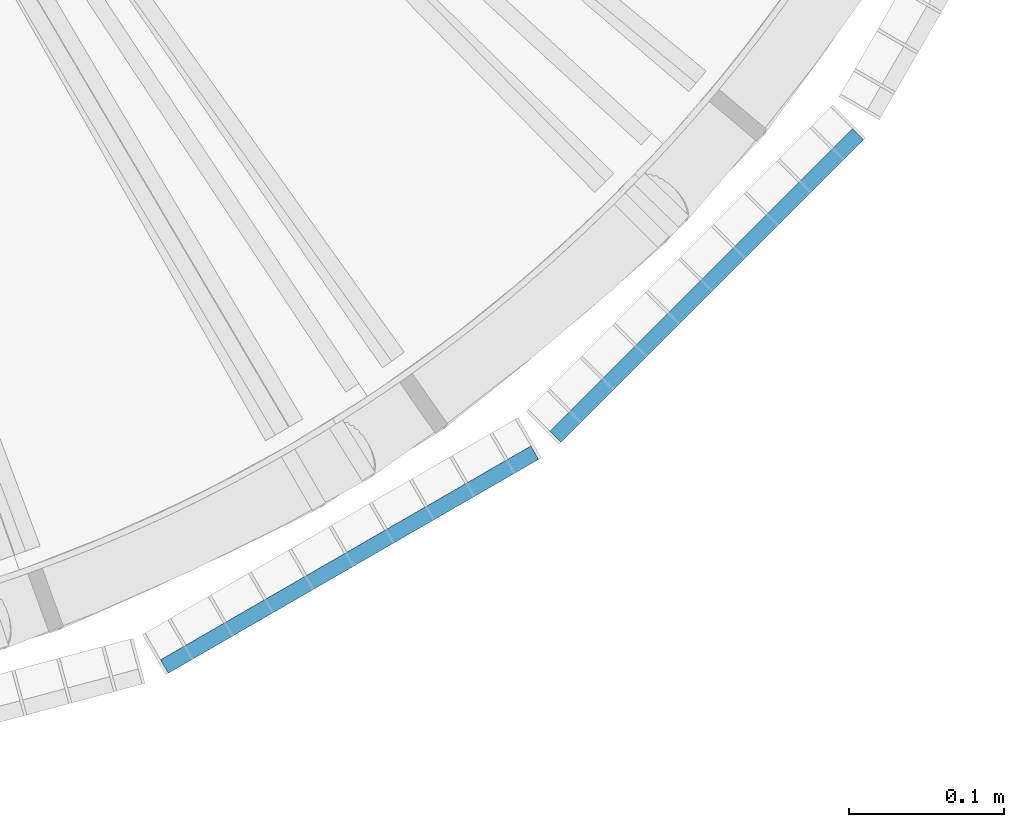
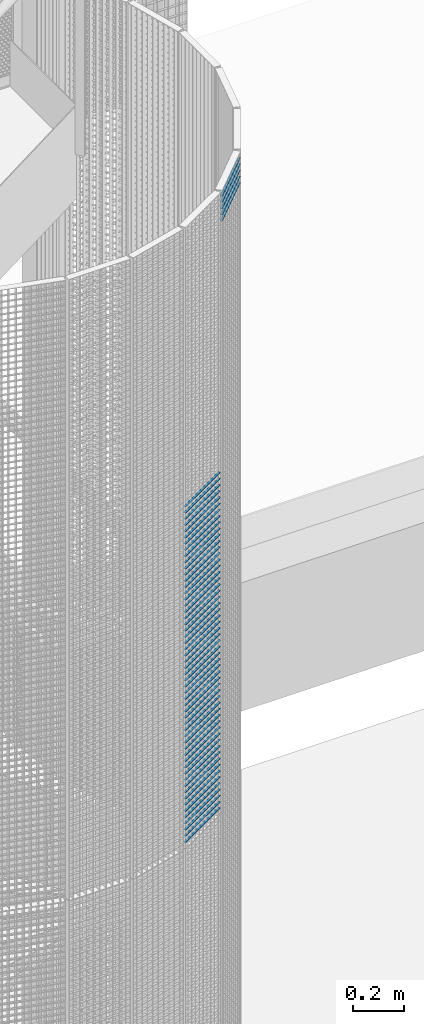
# One storey, part 379 of 1148: 60 beams, 2 elements without a shape of their own.
"""IFC2X3 building model written with IfcOpenShell, lengths in millimetres."""

from ifc_helpers import new_model, si_unit, frame, origin_with_axes, origin_2d_with_axis, place, context, subcontext, project, spatial, rectangle, extrude, material, type_object, element, aggregate, save


model = new_model("IFC2X3")

# Units and contexts
model_context = context("Model", 3, precision=1e-05, world=origin_with_axes())
body_context = subcontext(model_context, "Body", "Model", "MODEL_VIEW")
ifc_project = project(units=[si_unit("LENGTHUNIT", "METRE", prefix="MILLI"), si_unit("AREAUNIT", "SQUARE_METRE"), si_unit("VOLUMEUNIT", "CUBIC_METRE"), si_unit("MASSUNIT", "GRAM", prefix="KILO"), si_unit("TIMEUNIT", "SECOND"), si_unit("PLANEANGLEUNIT", "RADIAN"), si_unit("SOLIDANGLEUNIT", "STERADIAN"), si_unit("THERMODYNAMICTEMPERATUREUNIT", "DEGREE_CELSIUS"), si_unit("LUMINOUSINTENSITYUNIT", "LUMEN")], contexts=[model_context])

# Site, building, storey
site_placement = place(None, origin_with_axes())
site = spatial("IfcSite", under=ifc_project, at=site_placement, Name="Undefined", CompositionType="ELEMENT")
building_placement = place(site_placement, origin_with_axes())
building = spatial("IfcBuilding", under=site, at=building_placement, Name="Undefined", CompositionType="ELEMENT")
storey_placement = place(building_placement, origin_with_axes())
storey = spatial("IfcBuildingStorey", under=building, at=storey_placement, Name="Undefined", CompositionType="ELEMENT", Elevation=0.0)

# Assembly, beams
assembly_1_placement = place(storey_placement, origin_with_axes())
assembly_1 = element("IfcElementAssembly", 1, at=assembly_1_placement, inside=storey, Name="BORDURE", AssemblyPlace="NOTDEFINED", PredefinedType="NOTDEFINED")
ifc_material = material(Name="STEEL/S235JR")
beam_type = type_object("IfcBeamType", Name="PL2*10", PredefinedType="NOTDEFINED")
beam_1_placement = place(assembly_1_placement, frame((22276.2480445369, -895.303964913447, 16650.0), z_axis=(0.499999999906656, -0.866025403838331, 0.0), x_axis=(-0.866025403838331, -0.499999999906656, 0.0)))
beam_1 = element("IfcBeam", 2, at=beam_1_placement, type_object=beam_type, material=ifc_material, Name="ENTRETOISE", context=body_context, shape_type="SweptSolid", body=[
    extrude(rectangle(XDim=2.0, YDim=10.0, at=origin_2d_with_axis()), frame((275.999999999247, 9.09494701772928e-13, 1.53210777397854e-14), z_axis=(-1.0, 0.0, 0.0), x_axis=(0.0, -1.0, 0.0)), (0.0, 0.0, 1.0), 276.0),
])
beam_2_placement = place(assembly_1_placement, frame((22276.2480445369, -895.303964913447, 16620.0), z_axis=(0.499999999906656, -0.866025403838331, 0.0), x_axis=(-0.866025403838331, -0.499999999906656, 0.0)))
beam_2 = element("IfcBeam", 3, at=beam_2_placement, type_object=beam_type, material=ifc_material, Name="ENTRETOISE", context=body_context, shape_type="SweptSolid", body=[
    extrude(rectangle(XDim=2.0, YDim=10.0, at=origin_2d_with_axis()), frame((275.999999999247, 9.09494701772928e-13, 1.53210777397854e-14), z_axis=(-1.0, 0.0, 0.0), x_axis=(0.0, -1.0, 0.0)), (0.0, 0.0, 1.0), 276.0),
])
beam_3_placement = place(assembly_1_placement, frame((22276.2480445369, -895.303964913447, 16590.0), z_axis=(0.499999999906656, -0.866025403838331, 0.0), x_axis=(-0.866025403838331, -0.499999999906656, 0.0)))
beam_3 = element("IfcBeam", 4, at=beam_3_placement, type_object=beam_type, material=ifc_material, Name="ENTRETOISE", context=body_context, shape_type="SweptSolid", body=[
    extrude(rectangle(XDim=2.0, YDim=10.0, at=origin_2d_with_axis()), frame((275.999999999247, 9.09494701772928e-13, 1.53210777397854e-14), z_axis=(-1.0, 0.0, 0.0), x_axis=(0.0, -1.0, 0.0)), (0.0, 0.0, 1.0), 276.0),
])
beam_4_placement = place(assembly_1_placement, frame((22276.2480445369, -895.303964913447, 16560.0), z_axis=(0.499999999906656, -0.866025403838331, 0.0), x_axis=(-0.866025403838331, -0.499999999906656, 0.0)))
beam_4 = element("IfcBeam", 5, at=beam_4_placement, type_object=beam_type, material=ifc_material, Name="ENTRETOISE", context=body_context, shape_type="SweptSolid", body=[
    extrude(rectangle(XDim=2.0, YDim=10.0, at=origin_2d_with_axis()), frame((275.999999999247, 9.09494701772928e-13, 1.53210777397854e-14), z_axis=(-1.0, 0.0, 0.0), x_axis=(0.0, -1.0, 0.0)), (0.0, 0.0, 1.0), 276.0),
])
beam_5_placement = place(assembly_1_placement, frame((22276.2480445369, -895.303964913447, 16530.0), z_axis=(0.499999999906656, -0.866025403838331, 0.0), x_axis=(-0.866025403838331, -0.499999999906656, 0.0)))
beam_5 = element("IfcBeam", 6, at=beam_5_placement, type_object=beam_type, material=ifc_material, Name="ENTRETOISE", context=body_context, shape_type="SweptSolid", body=[
    extrude(rectangle(XDim=2.0, YDim=10.0, at=origin_2d_with_axis()), frame((275.999999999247, 9.09494701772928e-13, 1.53210777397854e-14), z_axis=(-1.0, 0.0, 0.0), x_axis=(0.0, -1.0, 0.0)), (0.0, 0.0, 1.0), 276.0),
])
beam_6_placement = place(assembly_1_placement, frame((22276.2480445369, -895.303964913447, 16500.0), z_axis=(0.499999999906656, -0.866025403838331, 0.0), x_axis=(-0.866025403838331, -0.499999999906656, 0.0)))
beam_6 = element("IfcBeam", 7, at=beam_6_placement, type_object=beam_type, material=ifc_material, Name="ENTRETOISE", context=body_context, shape_type="SweptSolid", body=[
    extrude(rectangle(XDim=2.0, YDim=10.0, at=origin_2d_with_axis()), frame((275.999999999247, 9.09494701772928e-13, 1.53210777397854e-14), z_axis=(-1.0, 0.0, 0.0), x_axis=(0.0, -1.0, 0.0)), (0.0, 0.0, 1.0), 276.0),
])
beam_7_placement = place(assembly_1_placement, frame((22276.2480445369, -895.303964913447, 16470.0), z_axis=(0.499999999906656, -0.866025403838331, 0.0), x_axis=(-0.866025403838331, -0.499999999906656, 0.0)))
beam_7 = element("IfcBeam", 8, at=beam_7_placement, type_object=beam_type, material=ifc_material, Name="ENTRETOISE", context=body_context, shape_type="SweptSolid", body=[
    extrude(rectangle(XDim=2.0, YDim=10.0, at=origin_2d_with_axis()), frame((275.999999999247, 9.09494701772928e-13, 1.53210777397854e-14), z_axis=(-1.0, 0.0, 0.0), x_axis=(0.0, -1.0, 0.0)), (0.0, 0.0, 1.0), 276.0),
])
beam_8_placement = place(assembly_1_placement, frame((22276.2480445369, -895.303964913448, 16440.0), z_axis=(0.499999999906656, -0.866025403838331, 0.0), x_axis=(-0.866025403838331, -0.499999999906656, 0.0)))
beam_8 = element("IfcBeam", 9, at=beam_8_placement, type_object=beam_type, material=ifc_material, Name="ENTRETOISE", context=body_context, shape_type="SweptSolid", body=[
    extrude(rectangle(XDim=2.0, YDim=10.0, at=origin_2d_with_axis()), frame((275.999999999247, 9.09494701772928e-13, 1.53210777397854e-14), z_axis=(-1.0, 0.0, 0.0), x_axis=(0.0, -1.0, 0.0)), (0.0, 0.0, 1.0), 276.0),
])
beam_9_placement = place(assembly_1_placement, frame((22276.2480445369, -895.303964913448, 16410.0), z_axis=(0.499999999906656, -0.866025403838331, 0.0), x_axis=(-0.866025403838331, -0.499999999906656, 0.0)))
beam_9 = element("IfcBeam", 10, at=beam_9_placement, type_object=beam_type, material=ifc_material, Name="ENTRETOISE", context=body_context, shape_type="SweptSolid", body=[
    extrude(rectangle(XDim=2.0, YDim=10.0, at=origin_2d_with_axis()), frame((275.999999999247, 9.09494701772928e-13, 1.53210777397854e-14), z_axis=(-1.0, 0.0, 0.0), x_axis=(0.0, -1.0, 0.0)), (0.0, 0.0, 1.0), 276.0),
])
beam_10_placement = place(assembly_1_placement, frame((22276.2480445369, -895.303964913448, 16380.0), z_axis=(0.499999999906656, -0.866025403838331, 0.0), x_axis=(-0.866025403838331, -0.499999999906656, 0.0)))
beam_10 = element("IfcBeam", 11, at=beam_10_placement, type_object=beam_type, material=ifc_material, Name="ENTRETOISE", context=body_context, shape_type="SweptSolid", body=[
    extrude(rectangle(XDim=2.0, YDim=10.0, at=origin_2d_with_axis()), frame((275.999999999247, 9.09494701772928e-13, 1.53210777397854e-14), z_axis=(-1.0, 0.0, 0.0), x_axis=(0.0, -1.0, 0.0)), (0.0, 0.0, 1.0), 276.0),
])
beam_11_placement = place(assembly_1_placement, frame((22276.2480445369, -895.303964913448, 16350.0), z_axis=(0.499999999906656, -0.866025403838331, 0.0), x_axis=(-0.866025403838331, -0.499999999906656, 0.0)))
beam_11 = element("IfcBeam", 12, at=beam_11_placement, type_object=beam_type, material=ifc_material, Name="ENTRETOISE", context=body_context, shape_type="SweptSolid", body=[
    extrude(rectangle(XDim=2.0, YDim=10.0, at=origin_2d_with_axis()), frame((275.999999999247, 9.09494701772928e-13, 1.53210777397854e-14), z_axis=(-1.0, 0.0, 0.0), x_axis=(0.0, -1.0, 0.0)), (0.0, 0.0, 1.0), 276.0),
])
beam_12_placement = place(assembly_1_placement, frame((22276.2480445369, -895.303964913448, 16320.0), z_axis=(0.499999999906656, -0.866025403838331, 0.0), x_axis=(-0.866025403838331, -0.499999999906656, 0.0)))
beam_12 = element("IfcBeam", 13, at=beam_12_placement, type_object=beam_type, material=ifc_material, Name="ENTRETOISE", context=body_context, shape_type="SweptSolid", body=[
    extrude(rectangle(XDim=2.0, YDim=10.0, at=origin_2d_with_axis()), frame((275.999999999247, 9.09494701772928e-13, 1.53210777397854e-14), z_axis=(-1.0, 0.0, 0.0), x_axis=(0.0, -1.0, 0.0)), (0.0, 0.0, 1.0), 276.0),
])
beam_13_placement = place(assembly_1_placement, frame((22276.2480445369, -895.303964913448, 16290.0), z_axis=(0.499999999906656, -0.866025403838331, 0.0), x_axis=(-0.866025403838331, -0.499999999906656, 0.0)))
beam_13 = element("IfcBeam", 14, at=beam_13_placement, type_object=beam_type, material=ifc_material, Name="ENTRETOISE", context=body_context, shape_type="SweptSolid", body=[
    extrude(rectangle(XDim=2.0, YDim=10.0, at=origin_2d_with_axis()), frame((275.999999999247, 9.09494701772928e-13, 1.53210777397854e-14), z_axis=(-1.0, 0.0, 0.0), x_axis=(0.0, -1.0, 0.0)), (0.0, 0.0, 1.0), 276.0),
])
beam_14_placement = place(assembly_1_placement, frame((22276.2480445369, -895.303964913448, 16260.0), z_axis=(0.499999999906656, -0.866025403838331, 0.0), x_axis=(-0.866025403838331, -0.499999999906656, 0.0)))
beam_14 = element("IfcBeam", 15, at=beam_14_placement, type_object=beam_type, material=ifc_material, Name="ENTRETOISE", context=body_context, shape_type="SweptSolid", body=[
    extrude(rectangle(XDim=2.0, YDim=10.0, at=origin_2d_with_axis()), frame((275.999999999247, 9.09494701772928e-13, 1.53210777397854e-14), z_axis=(-1.0, 0.0, 0.0), x_axis=(0.0, -1.0, 0.0)), (0.0, 0.0, 1.0), 276.0),
])
beam_15_placement = place(assembly_1_placement, frame((22276.2480445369, -895.303964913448, 16230.0), z_axis=(0.499999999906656, -0.866025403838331, 0.0), x_axis=(-0.866025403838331, -0.499999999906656, 0.0)))
beam_15 = element("IfcBeam", 16, at=beam_15_placement, type_object=beam_type, material=ifc_material, Name="ENTRETOISE", context=body_context, shape_type="SweptSolid", body=[
    extrude(rectangle(XDim=2.0, YDim=10.0, at=origin_2d_with_axis()), frame((275.999999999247, 9.09494701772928e-13, 1.53210777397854e-14), z_axis=(-1.0, 0.0, 0.0), x_axis=(0.0, -1.0, 0.0)), (0.0, 0.0, 1.0), 276.0),
])
beam_16_placement = place(assembly_1_placement, frame((22276.2480445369, -895.303964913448, 16200.0), z_axis=(0.499999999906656, -0.866025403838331, 0.0), x_axis=(-0.866025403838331, -0.499999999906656, 0.0)))
beam_16 = element("IfcBeam", 17, at=beam_16_placement, type_object=beam_type, material=ifc_material, Name="ENTRETOISE", context=body_context, shape_type="SweptSolid", body=[
    extrude(rectangle(XDim=2.0, YDim=10.0, at=origin_2d_with_axis()), frame((275.999999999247, 9.09494701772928e-13, 1.53210777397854e-14), z_axis=(-1.0, 0.0, 0.0), x_axis=(0.0, -1.0, 0.0)), (0.0, 0.0, 1.0), 276.0),
])
beam_17_placement = place(assembly_1_placement, frame((22276.2480445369, -895.303964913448, 16170.0), z_axis=(0.499999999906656, -0.866025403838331, 0.0), x_axis=(-0.866025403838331, -0.499999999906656, 0.0)))
beam_17 = element("IfcBeam", 18, at=beam_17_placement, type_object=beam_type, material=ifc_material, Name="ENTRETOISE", context=body_context, shape_type="SweptSolid", body=[
    extrude(rectangle(XDim=2.0, YDim=10.0, at=origin_2d_with_axis()), frame((275.999999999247, 9.09494701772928e-13, 1.53210777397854e-14), z_axis=(-1.0, 0.0, 0.0), x_axis=(0.0, -1.0, 0.0)), (0.0, 0.0, 1.0), 276.0),
])
beam_18_placement = place(assembly_1_placement, frame((22276.2480445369, -895.303964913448, 16140.0), z_axis=(0.499999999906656, -0.866025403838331, 0.0), x_axis=(-0.866025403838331, -0.499999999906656, 0.0)))
beam_18 = element("IfcBeam", 19, at=beam_18_placement, type_object=beam_type, material=ifc_material, Name="ENTRETOISE", context=body_context, shape_type="SweptSolid", body=[
    extrude(rectangle(XDim=2.0, YDim=10.0, at=origin_2d_with_axis()), frame((275.999999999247, 9.09494701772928e-13, 1.53210777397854e-14), z_axis=(-1.0, 0.0, 0.0), x_axis=(0.0, -1.0, 0.0)), (0.0, 0.0, 1.0), 276.0),
])
beam_19_placement = place(assembly_1_placement, frame((22276.2480445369, -895.303964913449, 15720.0), z_axis=(0.499999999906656, -0.866025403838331, 0.0), x_axis=(-0.866025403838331, -0.499999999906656, 0.0)))
beam_19 = element("IfcBeam", 20, at=beam_19_placement, type_object=beam_type, material=ifc_material, Name="ENTRETOISE", context=body_context, shape_type="SweptSolid", body=[
    extrude(rectangle(XDim=2.0, YDim=10.0, at=origin_2d_with_axis()), frame((275.999999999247, 9.09494701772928e-13, 1.53210777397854e-14), z_axis=(-1.0, 0.0, 0.0), x_axis=(0.0, -1.0, 0.0)), (0.0, 0.0, 1.0), 276.0),
])
beam_20_placement = place(assembly_1_placement, frame((22276.2480445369, -895.303964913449, 15690.0), z_axis=(0.499999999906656, -0.866025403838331, 0.0), x_axis=(-0.866025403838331, -0.499999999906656, 0.0)))
beam_20 = element("IfcBeam", 21, at=beam_20_placement, type_object=beam_type, material=ifc_material, Name="ENTRETOISE", context=body_context, shape_type="SweptSolid", body=[
    extrude(rectangle(XDim=2.0, YDim=10.0, at=origin_2d_with_axis()), frame((275.999999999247, 9.09494701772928e-13, 1.53210777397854e-14), z_axis=(-1.0, 0.0, 0.0), x_axis=(0.0, -1.0, 0.0)), (0.0, 0.0, 1.0), 276.0),
])
beam_21_placement = place(assembly_1_placement, frame((22276.2480445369, -895.303964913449, 15750.0), z_axis=(0.499999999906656, -0.866025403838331, 0.0), x_axis=(-0.866025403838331, -0.499999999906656, 0.0)))
beam_21 = element("IfcBeam", 22, at=beam_21_placement, type_object=beam_type, material=ifc_material, Name="ENTRETOISE", context=body_context, shape_type="SweptSolid", body=[
    extrude(rectangle(XDim=2.0, YDim=10.0, at=origin_2d_with_axis()), frame((275.999999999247, 9.09494701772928e-13, 1.53210777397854e-14), z_axis=(-1.0, 0.0, 0.0), x_axis=(0.0, -1.0, 0.0)), (0.0, 0.0, 1.0), 276.0),
])
beam_22_placement = place(assembly_1_placement, frame((22276.2480445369, -895.303964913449, 15660.0), z_axis=(0.499999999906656, -0.866025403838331, 0.0), x_axis=(-0.866025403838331, -0.499999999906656, 0.0)))
beam_22 = element("IfcBeam", 23, at=beam_22_placement, type_object=beam_type, material=ifc_material, Name="ENTRETOISE", context=body_context, shape_type="SweptSolid", body=[
    extrude(rectangle(XDim=2.0, YDim=10.0, at=origin_2d_with_axis()), frame((275.999999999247, 9.09494701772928e-13, 1.53210777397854e-14), z_axis=(-1.0, 0.0, 0.0), x_axis=(0.0, -1.0, 0.0)), (0.0, 0.0, 1.0), 276.0),
])
beam_23_placement = place(assembly_1_placement, frame((22276.2480445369, -895.303964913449, 15630.0), z_axis=(0.499999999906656, -0.866025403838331, 0.0), x_axis=(-0.866025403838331, -0.499999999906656, 0.0)))
beam_23 = element("IfcBeam", 24, at=beam_23_placement, type_object=beam_type, material=ifc_material, Name="ENTRETOISE", context=body_context, shape_type="SweptSolid", body=[
    extrude(rectangle(XDim=2.0, YDim=10.0, at=origin_2d_with_axis()), frame((275.999999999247, 9.09494701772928e-13, 1.53210777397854e-14), z_axis=(-1.0, 0.0, 0.0), x_axis=(0.0, -1.0, 0.0)), (0.0, 0.0, 1.0), 276.0),
])
beam_24_placement = place(assembly_1_placement, frame((22276.2480445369, -895.303964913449, 15780.0), z_axis=(0.499999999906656, -0.866025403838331, 0.0), x_axis=(-0.866025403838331, -0.499999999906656, 0.0)))
beam_24 = element("IfcBeam", 25, at=beam_24_placement, type_object=beam_type, material=ifc_material, Name="ENTRETOISE", context=body_context, shape_type="SweptSolid", body=[
    extrude(rectangle(XDim=2.0, YDim=10.0, at=origin_2d_with_axis()), frame((275.999999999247, 9.09494701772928e-13, 1.53210777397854e-14), z_axis=(-1.0, 0.0, 0.0), x_axis=(0.0, -1.0, 0.0)), (0.0, 0.0, 1.0), 276.0),
])
beam_25_placement = place(assembly_1_placement, frame((22276.2480445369, -895.30396491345, 15600.0), z_axis=(0.499999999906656, -0.866025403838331, 0.0), x_axis=(-0.866025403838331, -0.499999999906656, 0.0)))
beam_25 = element("IfcBeam", 26, at=beam_25_placement, type_object=beam_type, material=ifc_material, Name="ENTRETOISE", context=body_context, shape_type="SweptSolid", body=[
    extrude(rectangle(XDim=2.0, YDim=10.0, at=origin_2d_with_axis()), frame((275.999999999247, 9.09494701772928e-13, 1.53210777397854e-14), z_axis=(-1.0, 0.0, 0.0), x_axis=(0.0, -1.0, 0.0)), (0.0, 0.0, 1.0), 276.0),
])
beam_26_placement = place(assembly_1_placement, frame((22276.2480445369, -895.303964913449, 15810.0), z_axis=(0.499999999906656, -0.866025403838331, 0.0), x_axis=(-0.866025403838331, -0.499999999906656, 0.0)))
beam_26 = element("IfcBeam", 27, at=beam_26_placement, type_object=beam_type, material=ifc_material, Name="ENTRETOISE", context=body_context, shape_type="SweptSolid", body=[
    extrude(rectangle(XDim=2.0, YDim=10.0, at=origin_2d_with_axis()), frame((275.999999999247, 9.09494701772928e-13, 1.53210777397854e-14), z_axis=(-1.0, 0.0, 0.0), x_axis=(0.0, -1.0, 0.0)), (0.0, 0.0, 1.0), 276.0),
])
beam_27_placement = place(assembly_1_placement, frame((22276.2480445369, -895.30396491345, 15570.0), z_axis=(0.499999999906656, -0.866025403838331, 0.0), x_axis=(-0.866025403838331, -0.499999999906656, 0.0)))
beam_27 = element("IfcBeam", 28, at=beam_27_placement, type_object=beam_type, material=ifc_material, Name="ENTRETOISE", context=body_context, shape_type="SweptSolid", body=[
    extrude(rectangle(XDim=2.0, YDim=10.0, at=origin_2d_with_axis()), frame((275.999999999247, 9.09494701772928e-13, 1.53210777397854e-14), z_axis=(-1.0, 0.0, 0.0), x_axis=(0.0, -1.0, 0.0)), (0.0, 0.0, 1.0), 276.0),
])
beam_28_placement = place(assembly_1_placement, frame((22276.2480445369, -895.30396491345, 15540.0), z_axis=(0.499999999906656, -0.866025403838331, 0.0), x_axis=(-0.866025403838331, -0.499999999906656, 0.0)))
beam_28 = element("IfcBeam", 29, at=beam_28_placement, type_object=beam_type, material=ifc_material, Name="ENTRETOISE", context=body_context, shape_type="SweptSolid", body=[
    extrude(rectangle(XDim=2.0, YDim=10.0, at=origin_2d_with_axis()), frame((275.999999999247, 9.09494701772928e-13, 1.53210777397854e-14), z_axis=(-1.0, 0.0, 0.0), x_axis=(0.0, -1.0, 0.0)), (0.0, 0.0, 1.0), 276.0),
])
beam_29_placement = place(assembly_1_placement, frame((22276.2480445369, -895.303964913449, 15840.0), z_axis=(0.499999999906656, -0.866025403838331, 0.0), x_axis=(-0.866025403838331, -0.499999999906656, 0.0)))
beam_29 = element("IfcBeam", 30, at=beam_29_placement, type_object=beam_type, material=ifc_material, Name="ENTRETOISE", context=body_context, shape_type="SweptSolid", body=[
    extrude(rectangle(XDim=2.0, YDim=10.0, at=origin_2d_with_axis()), frame((275.999999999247, 9.09494701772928e-13, 1.53210777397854e-14), z_axis=(-1.0, 0.0, 0.0), x_axis=(0.0, -1.0, 0.0)), (0.0, 0.0, 1.0), 276.0),
])
beam_30_placement = place(assembly_1_placement, frame((22276.2480445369, -895.303964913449, 15510.0), z_axis=(0.499999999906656, -0.866025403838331, 0.0), x_axis=(-0.866025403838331, -0.499999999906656, 0.0)))
beam_30 = element("IfcBeam", 31, at=beam_30_placement, type_object=beam_type, material=ifc_material, Name="ENTRETOISE", context=body_context, shape_type="SweptSolid", body=[
    extrude(rectangle(XDim=2.0, YDim=10.0, at=origin_2d_with_axis()), frame((275.999999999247, 9.09494701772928e-13, 1.53210777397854e-14), z_axis=(-1.0, 0.0, 0.0), x_axis=(0.0, -1.0, 0.0)), (0.0, 0.0, 1.0), 276.0),
])
beam_31_placement = place(assembly_1_placement, frame((22276.2480445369, -895.303964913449, 15480.0), z_axis=(0.499999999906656, -0.866025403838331, 0.0), x_axis=(-0.866025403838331, -0.499999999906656, 0.0)))
beam_31 = element("IfcBeam", 32, at=beam_31_placement, type_object=beam_type, material=ifc_material, Name="ENTRETOISE", context=body_context, shape_type="SweptSolid", body=[
    extrude(rectangle(XDim=2.0, YDim=10.0, at=origin_2d_with_axis()), frame((275.999999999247, 9.09494701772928e-13, 1.53210777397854e-14), z_axis=(-1.0, 0.0, 0.0), x_axis=(0.0, -1.0, 0.0)), (0.0, 0.0, 1.0), 276.0),
])
beam_32_placement = place(assembly_1_placement, frame((22276.2480445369, -895.303964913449, 15870.0), z_axis=(0.499999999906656, -0.866025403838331, 0.0), x_axis=(-0.866025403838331, -0.499999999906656, 0.0)))
beam_32 = element("IfcBeam", 33, at=beam_32_placement, type_object=beam_type, material=ifc_material, Name="ENTRETOISE", context=body_context, shape_type="SweptSolid", body=[
    extrude(rectangle(XDim=2.0, YDim=10.0, at=origin_2d_with_axis()), frame((275.999999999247, 9.09494701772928e-13, 1.53210777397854e-14), z_axis=(-1.0, 0.0, 0.0), x_axis=(0.0, -1.0, 0.0)), (0.0, 0.0, 1.0), 276.0),
])
beam_33_placement = place(assembly_1_placement, frame((22276.2480445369, -895.30396491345, 15450.0), z_axis=(0.499999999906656, -0.866025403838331, 0.0), x_axis=(-0.866025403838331, -0.499999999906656, 0.0)))
beam_33 = element("IfcBeam", 34, at=beam_33_placement, type_object=beam_type, material=ifc_material, Name="ENTRETOISE", context=body_context, shape_type="SweptSolid", body=[
    extrude(rectangle(XDim=2.0, YDim=10.0, at=origin_2d_with_axis()), frame((275.999999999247, 9.09494701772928e-13, 1.53210777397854e-14), z_axis=(-1.0, 0.0, 0.0), x_axis=(0.0, -1.0, 0.0)), (0.0, 0.0, 1.0), 276.0),
])
beam_34_placement = place(assembly_1_placement, frame((22276.2480445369, -895.30396491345, 15420.0), z_axis=(0.499999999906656, -0.866025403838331, 0.0), x_axis=(-0.866025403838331, -0.499999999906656, 0.0)))
beam_34 = element("IfcBeam", 35, at=beam_34_placement, type_object=beam_type, material=ifc_material, Name="ENTRETOISE", context=body_context, shape_type="SweptSolid", body=[
    extrude(rectangle(XDim=2.0, YDim=10.0, at=origin_2d_with_axis()), frame((275.999999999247, 9.09494701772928e-13, 1.53210777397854e-14), z_axis=(-1.0, 0.0, 0.0), x_axis=(0.0, -1.0, 0.0)), (0.0, 0.0, 1.0), 276.0),
])
beam_35_placement = place(assembly_1_placement, frame((22276.2480445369, -895.303964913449, 15900.0), z_axis=(0.499999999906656, -0.866025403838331, 0.0), x_axis=(-0.866025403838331, -0.499999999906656, 0.0)))
beam_35 = element("IfcBeam", 36, at=beam_35_placement, type_object=beam_type, material=ifc_material, Name="ENTRETOISE", context=body_context, shape_type="SweptSolid", body=[
    extrude(rectangle(XDim=2.0, YDim=10.0, at=origin_2d_with_axis()), frame((275.999999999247, 9.09494701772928e-13, 1.53210777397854e-14), z_axis=(-1.0, 0.0, 0.0), x_axis=(0.0, -1.0, 0.0)), (0.0, 0.0, 1.0), 276.0),
])
beam_36_placement = place(assembly_1_placement, frame((22276.2480445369, -895.30396491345, 15390.0), z_axis=(0.499999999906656, -0.866025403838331, 0.0), x_axis=(-0.866025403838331, -0.499999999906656, 0.0)))
beam_36 = element("IfcBeam", 37, at=beam_36_placement, type_object=beam_type, material=ifc_material, Name="ENTRETOISE", context=body_context, shape_type="SweptSolid", body=[
    extrude(rectangle(XDim=2.0, YDim=10.0, at=origin_2d_with_axis()), frame((275.999999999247, 9.09494701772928e-13, 1.53210777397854e-14), z_axis=(-1.0, 0.0, 0.0), x_axis=(0.0, -1.0, 0.0)), (0.0, 0.0, 1.0), 276.0),
])
beam_37_placement = place(assembly_1_placement, frame((22276.2480445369, -895.303964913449, 15930.0), z_axis=(0.499999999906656, -0.866025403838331, 0.0), x_axis=(-0.866025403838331, -0.499999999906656, 0.0)))
beam_37 = element("IfcBeam", 38, at=beam_37_placement, type_object=beam_type, material=ifc_material, Name="ENTRETOISE", context=body_context, shape_type="SweptSolid", body=[
    extrude(rectangle(XDim=2.0, YDim=10.0, at=origin_2d_with_axis()), frame((275.999999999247, 9.09494701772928e-13, 1.53210777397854e-14), z_axis=(-1.0, 0.0, 0.0), x_axis=(0.0, -1.0, 0.0)), (0.0, 0.0, 1.0), 276.0),
])
beam_38_placement = place(assembly_1_placement, frame((22276.2480445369, -895.30396491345, 15360.0), z_axis=(0.499999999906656, -0.866025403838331, 0.0), x_axis=(-0.866025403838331, -0.499999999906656, 0.0)))
beam_38 = element("IfcBeam", 39, at=beam_38_placement, type_object=beam_type, material=ifc_material, Name="ENTRETOISE", context=body_context, shape_type="SweptSolid", body=[
    extrude(rectangle(XDim=2.0, YDim=10.0, at=origin_2d_with_axis()), frame((275.999999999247, 9.09494701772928e-13, 1.53210777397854e-14), z_axis=(-1.0, 0.0, 0.0), x_axis=(0.0, -1.0, 0.0)), (0.0, 0.0, 1.0), 276.0),
])
beam_39_placement = place(assembly_1_placement, frame((22276.2480445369, -895.30396491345, 15330.0), z_axis=(0.499999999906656, -0.866025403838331, 0.0), x_axis=(-0.866025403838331, -0.499999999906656, 0.0)))
beam_39 = element("IfcBeam", 40, at=beam_39_placement, type_object=beam_type, material=ifc_material, Name="ENTRETOISE", context=body_context, shape_type="SweptSolid", body=[
    extrude(rectangle(XDim=2.0, YDim=10.0, at=origin_2d_with_axis()), frame((275.999999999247, 9.09494701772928e-13, 1.53210777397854e-14), z_axis=(-1.0, 0.0, 0.0), x_axis=(0.0, -1.0, 0.0)), (0.0, 0.0, 1.0), 276.0),
])
beam_40_placement = place(assembly_1_placement, frame((22276.2480445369, -895.303964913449, 15960.0), z_axis=(0.499999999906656, -0.866025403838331, 0.0), x_axis=(-0.866025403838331, -0.499999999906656, 0.0)))
beam_40 = element("IfcBeam", 41, at=beam_40_placement, type_object=beam_type, material=ifc_material, Name="ENTRETOISE", context=body_context, shape_type="SweptSolid", body=[
    extrude(rectangle(XDim=2.0, YDim=10.0, at=origin_2d_with_axis()), frame((275.999999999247, 9.09494701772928e-13, 1.53210777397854e-14), z_axis=(-1.0, 0.0, 0.0), x_axis=(0.0, -1.0, 0.0)), (0.0, 0.0, 1.0), 276.0),
])
beam_41_placement = place(assembly_1_placement, frame((22276.2480445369, -895.30396491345, 15300.0), z_axis=(0.499999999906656, -0.866025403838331, 0.0), x_axis=(-0.866025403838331, -0.499999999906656, 0.0)))
beam_41 = element("IfcBeam", 42, at=beam_41_placement, type_object=beam_type, material=ifc_material, Name="ENTRETOISE", context=body_context, shape_type="SweptSolid", body=[
    extrude(rectangle(XDim=2.0, YDim=10.0, at=origin_2d_with_axis()), frame((275.999999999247, 9.09494701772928e-13, 1.53210777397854e-14), z_axis=(-1.0, 0.0, 0.0), x_axis=(0.0, -1.0, 0.0)), (0.0, 0.0, 1.0), 276.0),
])
beam_42_placement = place(assembly_1_placement, frame((22276.2480445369, -895.30396491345, 15270.0), z_axis=(0.499999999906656, -0.866025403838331, 0.0), x_axis=(-0.866025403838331, -0.499999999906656, 0.0)))
beam_42 = element("IfcBeam", 43, at=beam_42_placement, type_object=beam_type, material=ifc_material, Name="ENTRETOISE", context=body_context, shape_type="SweptSolid", body=[
    extrude(rectangle(XDim=2.0, YDim=10.0, at=origin_2d_with_axis()), frame((275.999999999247, 9.09494701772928e-13, 1.53210777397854e-14), z_axis=(-1.0, 0.0, 0.0), x_axis=(0.0, -1.0, 0.0)), (0.0, 0.0, 1.0), 276.0),
])
beam_43_placement = place(assembly_1_placement, frame((22276.2480445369, -895.303964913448, 15990.0), z_axis=(0.499999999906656, -0.866025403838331, 0.0), x_axis=(-0.866025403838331, -0.499999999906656, 0.0)))
beam_43 = element("IfcBeam", 44, at=beam_43_placement, type_object=beam_type, material=ifc_material, Name="ENTRETOISE", context=body_context, shape_type="SweptSolid", body=[
    extrude(rectangle(XDim=2.0, YDim=10.0, at=origin_2d_with_axis()), frame((275.999999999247, 9.09494701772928e-13, 1.53210777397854e-14), z_axis=(-1.0, 0.0, 0.0), x_axis=(0.0, -1.0, 0.0)), (0.0, 0.0, 1.0), 276.0),
])
beam_44_placement = place(assembly_1_placement, frame((22276.2480445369, -895.30396491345, 15240.0), z_axis=(0.499999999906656, -0.866025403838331, 0.0), x_axis=(-0.866025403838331, -0.499999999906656, 0.0)))
beam_44 = element("IfcBeam", 45, at=beam_44_placement, type_object=beam_type, material=ifc_material, Name="ENTRETOISE", context=body_context, shape_type="SweptSolid", body=[
    extrude(rectangle(XDim=2.0, YDim=10.0, at=origin_2d_with_axis()), frame((275.999999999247, 9.09494701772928e-13, 1.53210777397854e-14), z_axis=(-1.0, 0.0, 0.0), x_axis=(0.0, -1.0, 0.0)), (0.0, 0.0, 1.0), 276.0),
])
beam_45_placement = place(assembly_1_placement, frame((22276.2480445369, -895.303964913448, 16020.0), z_axis=(0.499999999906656, -0.866025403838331, 0.0), x_axis=(-0.866025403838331, -0.499999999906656, 0.0)))
beam_45 = element("IfcBeam", 46, at=beam_45_placement, type_object=beam_type, material=ifc_material, Name="ENTRETOISE", context=body_context, shape_type="SweptSolid", body=[
    extrude(rectangle(XDim=2.0, YDim=10.0, at=origin_2d_with_axis()), frame((275.999999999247, 9.09494701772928e-13, 1.53210777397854e-14), z_axis=(-1.0, 0.0, 0.0), x_axis=(0.0, -1.0, 0.0)), (0.0, 0.0, 1.0), 276.0),
])
beam_46_placement = place(assembly_1_placement, frame((22276.2480445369, -895.30396491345, 15210.0), z_axis=(0.499999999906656, -0.866025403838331, 0.0), x_axis=(-0.866025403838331, -0.499999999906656, 0.0)))
beam_46 = element("IfcBeam", 47, at=beam_46_placement, type_object=beam_type, material=ifc_material, Name="ENTRETOISE", context=body_context, shape_type="SweptSolid", body=[
    extrude(rectangle(XDim=2.0, YDim=10.0, at=origin_2d_with_axis()), frame((275.999999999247, 9.09494701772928e-13, 1.53210777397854e-14), z_axis=(-1.0, 0.0, 0.0), x_axis=(0.0, -1.0, 0.0)), (0.0, 0.0, 1.0), 276.0),
])
beam_47_placement = place(assembly_1_placement, frame((22276.2480445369, -895.30396491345, 15180.0), z_axis=(0.499999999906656, -0.866025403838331, 0.0), x_axis=(-0.866025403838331, -0.499999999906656, 0.0)))
beam_47 = element("IfcBeam", 48, at=beam_47_placement, type_object=beam_type, material=ifc_material, Name="ENTRETOISE", context=body_context, shape_type="SweptSolid", body=[
    extrude(rectangle(XDim=2.0, YDim=10.0, at=origin_2d_with_axis()), frame((275.999999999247, 9.09494701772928e-13, 1.53210777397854e-14), z_axis=(-1.0, 0.0, 0.0), x_axis=(0.0, -1.0, 0.0)), (0.0, 0.0, 1.0), 276.0),
])
beam_48_placement = place(assembly_1_placement, frame((22276.2480445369, -895.303964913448, 16050.0), z_axis=(0.499999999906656, -0.866025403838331, 0.0), x_axis=(-0.866025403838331, -0.499999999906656, 0.0)))
beam_48 = element("IfcBeam", 49, at=beam_48_placement, type_object=beam_type, material=ifc_material, Name="ENTRETOISE", context=body_context, shape_type="SweptSolid", body=[
    extrude(rectangle(XDim=2.0, YDim=10.0, at=origin_2d_with_axis()), frame((275.999999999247, 9.09494701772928e-13, 1.53210777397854e-14), z_axis=(-1.0, 0.0, 0.0), x_axis=(0.0, -1.0, 0.0)), (0.0, 0.0, 1.0), 276.0),
])
beam_49_placement = place(assembly_1_placement, frame((22276.2480445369, -895.30396491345, 15150.0), z_axis=(0.499999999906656, -0.866025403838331, 0.0), x_axis=(-0.866025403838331, -0.499999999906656, 0.0)))
beam_49 = element("IfcBeam", 50, at=beam_49_placement, type_object=beam_type, material=ifc_material, Name="ENTRETOISE", context=body_context, shape_type="SweptSolid", body=[
    extrude(rectangle(XDim=2.0, YDim=10.0, at=origin_2d_with_axis()), frame((275.999999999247, 9.09494701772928e-13, 1.53210777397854e-14), z_axis=(-1.0, 0.0, 0.0), x_axis=(0.0, -1.0, 0.0)), (0.0, 0.0, 1.0), 276.0),
])
beam_50_placement = place(assembly_1_placement, frame((22276.2480445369, -895.30396491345, 15120.0), z_axis=(0.499999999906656, -0.866025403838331, 0.0), x_axis=(-0.866025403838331, -0.499999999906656, 0.0)))
beam_50 = element("IfcBeam", 51, at=beam_50_placement, type_object=beam_type, material=ifc_material, Name="ENTRETOISE", context=body_context, shape_type="SweptSolid", body=[
    extrude(rectangle(XDim=2.0, YDim=10.0, at=origin_2d_with_axis()), frame((275.999999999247, 9.09494701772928e-13, 1.53210777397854e-14), z_axis=(-1.0, 0.0, 0.0), x_axis=(0.0, -1.0, 0.0)), (0.0, 0.0, 1.0), 276.0),
])
beam_51_placement = place(assembly_1_placement, frame((22276.2480445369, -895.303964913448, 16080.0), z_axis=(0.499999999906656, -0.866025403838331, 0.0), x_axis=(-0.866025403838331, -0.499999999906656, 0.0)))
beam_51 = element("IfcBeam", 52, at=beam_51_placement, type_object=beam_type, material=ifc_material, Name="ENTRETOISE", context=body_context, shape_type="SweptSolid", body=[
    extrude(rectangle(XDim=2.0, YDim=10.0, at=origin_2d_with_axis()), frame((275.999999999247, 9.09494701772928e-13, 1.53210777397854e-14), z_axis=(-1.0, 0.0, 0.0), x_axis=(0.0, -1.0, 0.0)), (0.0, 0.0, 1.0), 276.0),
])
beam_52_placement = place(assembly_1_placement, frame((22276.2480445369, -895.30396491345, 15090.0), z_axis=(0.499999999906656, -0.866025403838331, 0.0), x_axis=(-0.866025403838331, -0.499999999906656, 0.0)))
beam_52 = element("IfcBeam", 53, at=beam_52_placement, type_object=beam_type, material=ifc_material, Name="ENTRETOISE", context=body_context, shape_type="SweptSolid", body=[
    extrude(rectangle(XDim=2.0, YDim=10.0, at=origin_2d_with_axis()), frame((275.999999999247, 9.09494701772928e-13, 1.53210777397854e-14), z_axis=(-1.0, 0.0, 0.0), x_axis=(0.0, -1.0, 0.0)), (0.0, 0.0, 1.0), 276.0),
])
beam_53_placement = place(assembly_1_placement, frame((22276.2480445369, -895.30396491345, 15060.0), z_axis=(0.499999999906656, -0.866025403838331, 0.0), x_axis=(-0.866025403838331, -0.499999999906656, 0.0)))
beam_53 = element("IfcBeam", 54, at=beam_53_placement, type_object=beam_type, material=ifc_material, Name="ENTRETOISE", context=body_context, shape_type="SweptSolid", body=[
    extrude(rectangle(XDim=2.0, YDim=10.0, at=origin_2d_with_axis()), frame((275.999999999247, 9.09494701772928e-13, 1.53210777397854e-14), z_axis=(-1.0, 0.0, 0.0), x_axis=(0.0, -1.0, 0.0)), (0.0, 0.0, 1.0), 276.0),
])
beam_54_placement = place(assembly_1_placement, frame((22276.2480445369, -895.303964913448, 16110.0), z_axis=(0.499999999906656, -0.866025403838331, 0.0), x_axis=(-0.866025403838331, -0.499999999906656, 0.0)))
beam_54 = element("IfcBeam", 55, at=beam_54_placement, type_object=beam_type, material=ifc_material, Name="ENTRETOISE", context=body_context, shape_type="SweptSolid", body=[
    extrude(rectangle(XDim=2.0, YDim=10.0, at=origin_2d_with_axis()), frame((275.999999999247, 9.09494701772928e-13, 1.53210777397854e-14), z_axis=(-1.0, 0.0, 0.0), x_axis=(0.0, -1.0, 0.0)), (0.0, 0.0, 1.0), 276.0),
])
beam_55_placement = place(assembly_1_placement, frame((22276.2480445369, -895.30396491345, 15030.0), z_axis=(0.499999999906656, -0.866025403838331, 0.0), x_axis=(-0.866025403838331, -0.499999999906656, 0.0)))
beam_55 = element("IfcBeam", 56, at=beam_55_placement, type_object=beam_type, material=ifc_material, Name="ENTRETOISE", context=body_context, shape_type="SweptSolid", body=[
    extrude(rectangle(XDim=2.0, YDim=10.0, at=origin_2d_with_axis()), frame((275.999999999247, 9.09494701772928e-13, 1.53210777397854e-14), z_axis=(-1.0, 0.0, 0.0), x_axis=(0.0, -1.0, 0.0)), (0.0, 0.0, 1.0), 276.0),
])
aggregate(assembly_1, [beam_1, beam_2, beam_3, beam_4, beam_5, beam_6, beam_7, beam_8, beam_9, beam_10, beam_11, beam_12, beam_13, beam_14, beam_15, beam_16, beam_17, beam_18, beam_19, beam_20, beam_21, beam_22, beam_23, beam_24, beam_25, beam_26, beam_27, beam_28, beam_29, beam_30, beam_31, beam_32, beam_33, beam_34, beam_35, beam_36, beam_37, beam_38, beam_39, beam_40, beam_41, beam_42, beam_43, beam_44, beam_45, beam_46, beam_47, beam_48, beam_49, beam_50, beam_51, beam_52, beam_53, beam_54, beam_55])

assembly_2_placement = place(storey_placement, origin_with_axes())
assembly_2 = element("IfcElementAssembly", 57, at=assembly_2_placement, inside=storey, Name="BORDURE", AssemblyPlace="NOTDEFINED", PredefinedType="NOTDEFINED")
beam_56_placement = place(assembly_2_placement, frame((22484.9271684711, -689.771348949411, 17970.0), z_axis=(0.707106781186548, -0.707106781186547, 0.0), x_axis=(-0.70710678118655, -0.707106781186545, 0.0)))
beam_56 = element("IfcBeam", 58, at=beam_56_placement, type_object=beam_type, material=ifc_material, Name="ENTRETOISE", context=body_context, shape_type="SweptSolid", body=[
    extrude(rectangle(XDim=2.0, YDim=10.0, at=origin_2d_with_axis()), frame((275.999999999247, 9.09494701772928e-13, 1.53210777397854e-14), z_axis=(-1.0, 0.0, 0.0), x_axis=(0.0, -1.0, 0.0)), (0.0, 0.0, 1.0), 276.0),
])
beam_57_placement = place(assembly_2_placement, frame((22484.9271684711, -689.771348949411, 17940.0), z_axis=(0.707106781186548, -0.707106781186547, 0.0), x_axis=(-0.70710678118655, -0.707106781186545, 0.0)))
beam_57 = element("IfcBeam", 59, at=beam_57_placement, type_object=beam_type, material=ifc_material, Name="ENTRETOISE", context=body_context, shape_type="SweptSolid", body=[
    extrude(rectangle(XDim=2.0, YDim=10.0, at=origin_2d_with_axis()), frame((275.999999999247, 9.09494701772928e-13, 1.53210777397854e-14), z_axis=(-1.0, 0.0, 0.0), x_axis=(0.0, -1.0, 0.0)), (0.0, 0.0, 1.0), 276.0),
])
beam_58_placement = place(assembly_2_placement, frame((22484.9271684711, -689.771348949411, 17910.0), z_axis=(0.707106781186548, -0.707106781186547, 0.0), x_axis=(-0.70710678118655, -0.707106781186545, 0.0)))
beam_58 = element("IfcBeam", 60, at=beam_58_placement, type_object=beam_type, material=ifc_material, Name="ENTRETOISE", context=body_context, shape_type="SweptSolid", body=[
    extrude(rectangle(XDim=2.0, YDim=10.0, at=origin_2d_with_axis()), frame((275.999999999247, 9.09494701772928e-13, 1.53210777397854e-14), z_axis=(-1.0, 0.0, 0.0), x_axis=(0.0, -1.0, 0.0)), (0.0, 0.0, 1.0), 276.0),
])
beam_59_placement = place(assembly_2_placement, frame((22484.9271684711, -689.771348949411, 17880.0), z_axis=(0.707106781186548, -0.707106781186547, 0.0), x_axis=(-0.70710678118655, -0.707106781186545, 0.0)))
beam_59 = element("IfcBeam", 61, at=beam_59_placement, type_object=beam_type, material=ifc_material, Name="ENTRETOISE", context=body_context, shape_type="SweptSolid", body=[
    extrude(rectangle(XDim=2.0, YDim=10.0, at=origin_2d_with_axis()), frame((275.999999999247, 9.09494701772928e-13, 1.53210777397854e-14), z_axis=(-1.0, 0.0, 0.0), x_axis=(0.0, -1.0, 0.0)), (0.0, 0.0, 1.0), 276.0),
])
beam_60_placement = place(assembly_2_placement, frame((22484.9271684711, -689.771348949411, 17850.0), z_axis=(0.707106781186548, -0.707106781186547, 0.0), x_axis=(-0.70710678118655, -0.707106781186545, 0.0)))
beam_60 = element("IfcBeam", 62, at=beam_60_placement, type_object=beam_type, material=ifc_material, Name="ENTRETOISE", context=body_context, shape_type="SweptSolid", body=[
    extrude(rectangle(XDim=2.0, YDim=10.0, at=origin_2d_with_axis()), frame((275.999999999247, 9.09494701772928e-13, 1.53210777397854e-14), z_axis=(-1.0, 0.0, 0.0), x_axis=(0.0, -1.0, 0.0)), (0.0, 0.0, 1.0), 276.0),
])
aggregate(assembly_2, [beam_56, beam_57, beam_58, beam_59, beam_60])

save(model, "model.ifc")
